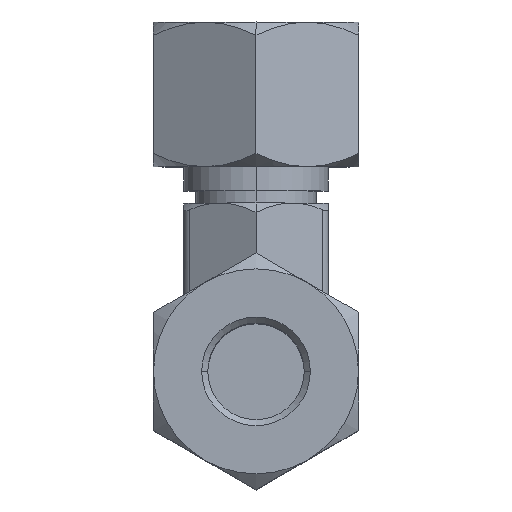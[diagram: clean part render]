
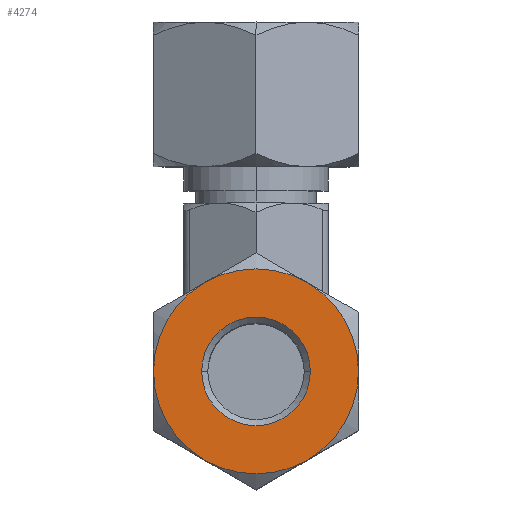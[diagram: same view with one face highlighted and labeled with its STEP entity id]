
A CAD part, top view. The second image highlights one B-rep face of the part: STEP entity #4274.
In plain terms, the highlighted planar face has unit normal (0, 0, 1).
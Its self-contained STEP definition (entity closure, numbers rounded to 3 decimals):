
#44 = DIRECTION ( 'NONE',  ( 1., 0., 0. ) ) ;
#124 = CARTESIAN_POINT ( 'NONE',  ( 0., 0., 29. ) ) ;
#218 = EDGE_CURVE ( 'NONE', #416, #248, #4241, .T. ) ;
#226 = DIRECTION ( 'NONE',  ( 0., 0., 1. ) ) ;
#248 = VERTEX_POINT ( 'NONE', #2531 ) ;
#264 = EDGE_CURVE ( 'NONE', #1740, #2913, #1936, .T. ) ;
#274 = FACE_OUTER_BOUND ( 'NONE', #1248, .T. ) ;
#399 = CARTESIAN_POINT ( 'NONE',  ( -8.5, 0., 29. ) ) ;
#416 = VERTEX_POINT ( 'NONE', #3139 ) ;
#467 = DIRECTION ( 'NONE',  ( 0., 0., 1. ) ) ;
#539 = CARTESIAN_POINT ( 'NONE',  ( 0., 0., 29. ) ) ;
#598 = DIRECTION ( 'NONE',  ( 1., 0., 0. ) ) ;
#644 = ORIENTED_EDGE ( 'NONE', *, *, #4261, .T. ) ;
#681 = EDGE_CURVE ( 'NONE', #248, #416, #3270, .T. ) ;
#707 = CARTESIAN_POINT ( 'NONE',  ( 0., 0., 29. ) ) ;
#754 = ORIENTED_EDGE ( 'NONE', *, *, #264, .T. ) ;
#760 = AXIS2_PLACEMENT_3D ( 'NONE', #3775, #2901, #2474 ) ;
#888 = CIRCLE ( 'NONE', #2804, 8.5 ) ;
#927 = CARTESIAN_POINT ( 'NONE',  ( 0., 0., 29. ) ) ;
#1054 = AXIS2_PLACEMENT_3D ( 'NONE', #2825, #2395, #1938 ) ;
#1210 = VERTEX_POINT ( 'NONE', #2554 ) ;
#1247 = EDGE_CURVE ( 'NONE', #3722, #1740, #888, .T. ) ;
#1248 = EDGE_LOOP ( 'NONE', ( #644, #3886, #754, #4139, #4087, #2688 ) ) ;
#1384 = DIRECTION ( 'NONE',  ( 1., 0., 0. ) ) ;
#1629 = VERTEX_POINT ( 'NONE', #4223 ) ;
#1740 = VERTEX_POINT ( 'NONE', #3083 ) ;
#1795 = DIRECTION ( 'NONE',  ( 0., 0., 1. ) ) ;
#1936 = CIRCLE ( 'NONE', #3278, 8.5 ) ;
#1938 = DIRECTION ( 'NONE',  ( 1., 0., 0. ) ) ;
#2160 = ORIENTED_EDGE ( 'NONE', *, *, #218, .T. ) ;
#2233 = CARTESIAN_POINT ( 'NONE',  ( 0., 0., 29. ) ) ;
#2310 = CIRCLE ( 'NONE', #1054, 8.5 ) ;
#2382 = DIRECTION ( 'NONE',  ( 0., 0., -1. ) ) ;
#2395 = DIRECTION ( 'NONE',  ( 0., 0., 1. ) ) ;
#2474 = DIRECTION ( 'NONE',  ( 1., 0., 0. ) ) ;
#2531 = CARTESIAN_POINT ( 'NONE',  ( -4.5, 0., 29. ) ) ;
#2554 = CARTESIAN_POINT ( 'NONE',  ( 4.25, -7.361, 29. ) ) ;
#2688 = ORIENTED_EDGE ( 'NONE', *, *, #3317, .T. ) ;
#2697 = DIRECTION ( 'NONE',  ( 1., 0., 0. ) ) ;
#2780 = DIRECTION ( 'NONE',  ( 1., 0., 0. ) ) ;
#2804 = AXIS2_PLACEMENT_3D ( 'NONE', #3670, #3213, #2780 ) ;
#2825 = CARTESIAN_POINT ( 'NONE',  ( 0., 0., 29. ) ) ;
#2901 = DIRECTION ( 'NONE',  ( 0., 0., 1. ) ) ;
#2913 = VERTEX_POINT ( 'NONE', #3358 ) ;
#2917 = EDGE_CURVE ( 'NONE', #2913, #3717, #3964, .T. ) ;
#2982 = EDGE_CURVE ( 'NONE', #3717, #1629, #2310, .T. ) ;
#3020 = AXIS2_PLACEMENT_3D ( 'NONE', #927, #467, #44 ) ;
#3083 = CARTESIAN_POINT ( 'NONE',  ( 4.25, 7.361, 29. ) ) ;
#3126 = PLANE ( 'NONE',  #3332 ) ;
#3139 = CARTESIAN_POINT ( 'NONE',  ( 4.5, 0., 29. ) ) ;
#3213 = DIRECTION ( 'NONE',  ( 0., 0., 1. ) ) ;
#3270 = CIRCLE ( 'NONE', #4170, 4.5 ) ;
#3278 = AXIS2_PLACEMENT_3D ( 'NONE', #539, #4028, #598 ) ;
#3317 = EDGE_CURVE ( 'NONE', #1629, #1210, #3658, .T. ) ;
#3319 = ORIENTED_EDGE ( 'NONE', *, *, #681, .T. ) ;
#3332 = AXIS2_PLACEMENT_3D ( 'NONE', #2233, #1795, #1384 ) ;
#3358 = CARTESIAN_POINT ( 'NONE',  ( -4.25, 7.361, 29. ) ) ;
#3368 = CIRCLE ( 'NONE', #3601, 8.5 ) ;
#3556 = DIRECTION ( 'NONE',  ( 1., 0., 0. ) ) ;
#3601 = AXIS2_PLACEMENT_3D ( 'NONE', #707, #226, #4097 ) ;
#3658 = CIRCLE ( 'NONE', #3020, 8.5 ) ;
#3670 = CARTESIAN_POINT ( 'NONE',  ( 0., 0., 29. ) ) ;
#3717 = VERTEX_POINT ( 'NONE', #399 ) ;
#3722 = VERTEX_POINT ( 'NONE', #4257 ) ;
#3775 = CARTESIAN_POINT ( 'NONE',  ( 0., 0., 29. ) ) ;
#3886 = ORIENTED_EDGE ( 'NONE', *, *, #1247, .T. ) ;
#3935 = EDGE_LOOP ( 'NONE', ( #2160, #3319 ) ) ;
#3964 = CIRCLE ( 'NONE', #760, 8.5 ) ;
#4000 = DIRECTION ( 'NONE',  ( 0., 0., -1. ) ) ;
#4028 = DIRECTION ( 'NONE',  ( 0., 0., 1. ) ) ;
#4087 = ORIENTED_EDGE ( 'NONE', *, *, #2982, .T. ) ;
#4093 = CARTESIAN_POINT ( 'NONE',  ( 0., 0., 29. ) ) ;
#4097 = DIRECTION ( 'NONE',  ( 1., 0., 0. ) ) ;
#4139 = ORIENTED_EDGE ( 'NONE', *, *, #2917, .T. ) ;
#4170 = AXIS2_PLACEMENT_3D ( 'NONE', #124, #4000, #3556 ) ;
#4223 = CARTESIAN_POINT ( 'NONE',  ( -4.25, -7.361, 29. ) ) ;
#4241 = CIRCLE ( 'NONE', #4267, 4.5 ) ;
#4243 = FACE_BOUND ( 'NONE', #3935, .T. ) ;
#4257 = CARTESIAN_POINT ( 'NONE',  ( 8.5, 0., 29. ) ) ;
#4261 = EDGE_CURVE ( 'NONE', #1210, #3722, #3368, .T. ) ;
#4267 = AXIS2_PLACEMENT_3D ( 'NONE', #4093, #2382, #2697 ) ;
#4274 = ADVANCED_FACE ( 'NONE', ( #4243, #274 ), #3126, .T. ) ;
